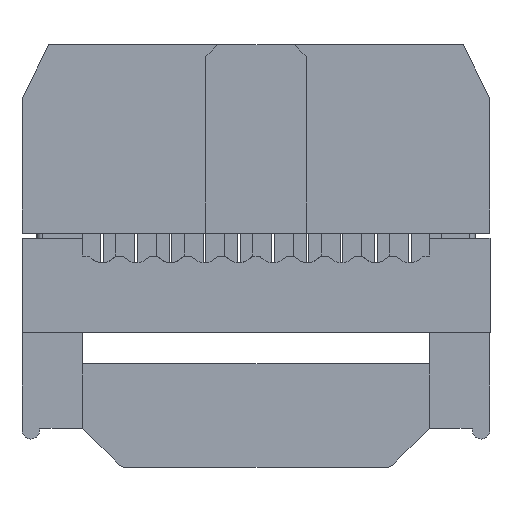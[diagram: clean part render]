
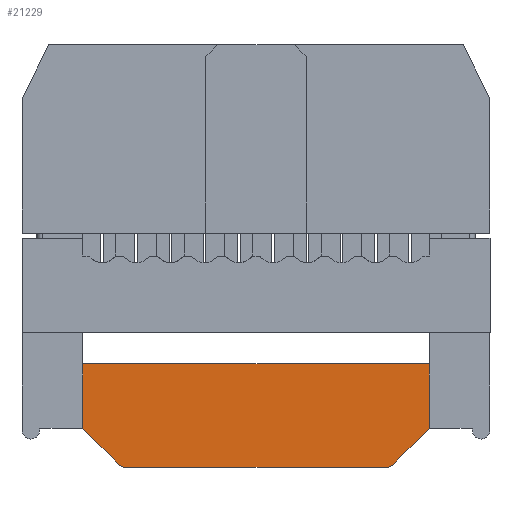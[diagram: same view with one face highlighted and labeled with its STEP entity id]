
A CAD part, front view. The second image highlights one B-rep face of the part: STEP entity #21229.
In plain terms, the highlighted planar face has unit normal (0, -1, 0).
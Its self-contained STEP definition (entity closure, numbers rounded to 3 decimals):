
#18367 = EDGE_CURVE('',#18368,#18370,#18372,.T.);
#18368 = VERTEX_POINT('',#18369);
#18369 = CARTESIAN_POINT('',(-5.075,-1.685,-1.365));
#18370 = VERTEX_POINT('',#18371);
#18371 = CARTESIAN_POINT('',(-4.87,-1.685,-1.45));
#18372 = SURFACE_CURVE('',#18373,(#18378,#18390),.PCURVE_S1.);
#18373 = CIRCLE('',#18374,0.29);
#18374 = AXIS2_PLACEMENT_3D('',#18375,#18376,#18377);
#18375 = CARTESIAN_POINT('',(-4.87,-1.685,-1.16));
#18376 = DIRECTION('',(0.,-1.,0.));
#18377 = DIRECTION('',(0.,0.,-1.));
#18378 = PCURVE('',#18379,#18384);
#18379 = CYLINDRICAL_SURFACE('',#18380,0.29);
#18380 = AXIS2_PLACEMENT_3D('',#18381,#18382,#18383);
#18381 = CARTESIAN_POINT('',(-4.87,-1.685,-1.16));
#18382 = DIRECTION('',(-0.,-1.,-0.));
#18383 = DIRECTION('',(0.,0.,1.));
#18384 = DEFINITIONAL_REPRESENTATION('',(#18385),#18389);
#18385 = LINE('',#18386,#18387);
#18386 = CARTESIAN_POINT('',(-3.142,0.));
#18387 = VECTOR('',#18388,1.);
#18388 = DIRECTION('',(1.,0.));
#18389 = ( GEOMETRIC_REPRESENTATION_CONTEXT(2) 
PARAMETRIC_REPRESENTATION_CONTEXT() REPRESENTATION_CONTEXT('2D SPACE',''
  ) );
#18390 = PCURVE('',#18391,#18396);
#18391 = PLANE('',#18392);
#18392 = AXIS2_PLACEMENT_3D('',#18393,#18394,#18395);
#18393 = CARTESIAN_POINT('',(-6.44,-1.685,0.));
#18394 = DIRECTION('',(0.,-1.,0.));
#18395 = DIRECTION('',(0.,0.,-1.));
#18396 = DEFINITIONAL_REPRESENTATION('',(#18397),#18401);
#18397 = CIRCLE('',#18398,0.29);
#18398 = AXIS2_PLACEMENT_2D('',#18399,#18400);
#18399 = CARTESIAN_POINT('',(1.16,1.57));
#18400 = DIRECTION('',(1.,0.));
#18401 = ( GEOMETRIC_REPRESENTATION_CONTEXT(2) 
PARAMETRIC_REPRESENTATION_CONTEXT() REPRESENTATION_CONTEXT('2D SPACE',''
  ) );
#18419 = PLANE('',#18420);
#18420 = AXIS2_PLACEMENT_3D('',#18421,#18422,#18423);
#18421 = CARTESIAN_POINT('',(-6.44,-1.685,0.));
#18422 = DIRECTION('',(-0.707,0.,-0.707));
#18423 = DIRECTION('',(-0.707,0.,0.707));
#18474 = PLANE('',#18475);
#18475 = AXIS2_PLACEMENT_3D('',#18476,#18477,#18478);
#18476 = CARTESIAN_POINT('',(-4.99,-1.685,-1.45));
#18477 = DIRECTION('',(0.,0.,-1.));
#18478 = DIRECTION('',(-1.,0.,0.));
#19018 = PLANE('',#19019);
#19019 = AXIS2_PLACEMENT_3D('',#19020,#19021,#19022);
#19020 = CARTESIAN_POINT('',(6.44,-3.,0.));
#19021 = DIRECTION('',(1.,0.,0.));
#19022 = DIRECTION('',(0.,0.,-1.));
#19402 = VERTEX_POINT('',#19403);
#19403 = CARTESIAN_POINT('',(6.44,-1.685,2.4));
#19417 = PLANE('',#19418);
#19418 = AXIS2_PLACEMENT_3D('',#19419,#19420,#19421);
#19419 = CARTESIAN_POINT('',(-6.44,-1.685,2.4));
#19420 = DIRECTION('',(0.,0.,-1.));
#19421 = DIRECTION('',(-1.,0.,0.));
#19429 = EDGE_CURVE('',#19430,#19402,#19432,.T.);
#19430 = VERTEX_POINT('',#19431);
#19431 = CARTESIAN_POINT('',(6.44,-1.685,0.));
#19432 = SURFACE_CURVE('',#19433,(#19437,#19444),.PCURVE_S1.);
#19433 = LINE('',#19434,#19435);
#19434 = CARTESIAN_POINT('',(6.44,-1.685,2.4));
#19435 = VECTOR('',#19436,1.);
#19436 = DIRECTION('',(0.,0.,1.));
#19437 = PCURVE('',#19018,#19438);
#19438 = DEFINITIONAL_REPRESENTATION('',(#19439),#19443);
#19439 = LINE('',#19440,#19441);
#19440 = CARTESIAN_POINT('',(-2.4,1.315));
#19441 = VECTOR('',#19442,1.);
#19442 = DIRECTION('',(-1.,0.));
#19443 = ( GEOMETRIC_REPRESENTATION_CONTEXT(2) 
PARAMETRIC_REPRESENTATION_CONTEXT() REPRESENTATION_CONTEXT('2D SPACE',''
  ) );
#19444 = PCURVE('',#18391,#19445);
#19445 = DEFINITIONAL_REPRESENTATION('',(#19446),#19450);
#19446 = LINE('',#19447,#19448);
#19447 = CARTESIAN_POINT('',(-2.4,12.88));
#19448 = VECTOR('',#19449,1.);
#19449 = DIRECTION('',(-1.,0.));
#19450 = ( GEOMETRIC_REPRESENTATION_CONTEXT(2) 
PARAMETRIC_REPRESENTATION_CONTEXT() REPRESENTATION_CONTEXT('2D SPACE',''
  ) );
#19877 = PLANE('',#19878);
#19878 = AXIS2_PLACEMENT_3D('',#19879,#19880,#19881);
#19879 = CARTESIAN_POINT('',(4.99,-1.685,-1.45));
#19880 = DIRECTION('',(0.707,0.,-0.707));
#19881 = DIRECTION('',(-0.707,0.,-0.707));
#19968 = PLANE('',#19969);
#19969 = AXIS2_PLACEMENT_3D('',#19970,#19971,#19972);
#19970 = CARTESIAN_POINT('',(-6.44,-3.,0.));
#19971 = DIRECTION('',(-1.,0.,0.));
#19972 = DIRECTION('',(0.,0.,1.));
#19981 = VERTEX_POINT('',#19982);
#19982 = CARTESIAN_POINT('',(-6.44,-1.685,0.));
#20145 = VERTEX_POINT('',#20146);
#20146 = CARTESIAN_POINT('',(-6.44,-1.685,2.4));
#20237 = EDGE_CURVE('',#20145,#19981,#20238,.T.);
#20238 = SURFACE_CURVE('',#20239,(#20243,#20250),.PCURVE_S1.);
#20239 = LINE('',#20240,#20241);
#20240 = CARTESIAN_POINT('',(-6.44,-1.685,0.));
#20241 = VECTOR('',#20242,1.);
#20242 = DIRECTION('',(0.,0.,-1.));
#20243 = PCURVE('',#19968,#20244);
#20244 = DEFINITIONAL_REPRESENTATION('',(#20245),#20249);
#20245 = LINE('',#20246,#20247);
#20246 = CARTESIAN_POINT('',(0.,1.315));
#20247 = VECTOR('',#20248,1.);
#20248 = DIRECTION('',(-1.,0.));
#20249 = ( GEOMETRIC_REPRESENTATION_CONTEXT(2) 
PARAMETRIC_REPRESENTATION_CONTEXT() REPRESENTATION_CONTEXT('2D SPACE',''
  ) );
#20250 = PCURVE('',#18391,#20251);
#20251 = DEFINITIONAL_REPRESENTATION('',(#20252),#20256);
#20252 = LINE('',#20253,#20254);
#20253 = CARTESIAN_POINT('',(0.,0.));
#20254 = VECTOR('',#20255,1.);
#20255 = DIRECTION('',(1.,0.));
#20256 = ( GEOMETRIC_REPRESENTATION_CONTEXT(2) 
PARAMETRIC_REPRESENTATION_CONTEXT() REPRESENTATION_CONTEXT('2D SPACE',''
  ) );
#20367 = CYLINDRICAL_SURFACE('',#20368,0.29);
#20368 = AXIS2_PLACEMENT_3D('',#20369,#20370,#20371);
#20369 = CARTESIAN_POINT('',(4.87,-1.685,-1.16));
#20370 = DIRECTION('',(-0.,-1.,-0.));
#20371 = DIRECTION('',(0.,0.,1.));
#20384 = EDGE_CURVE('',#18368,#19981,#20385,.T.);
#20385 = SURFACE_CURVE('',#20386,(#20390,#20397),.PCURVE_S1.);
#20386 = LINE('',#20387,#20388);
#20387 = CARTESIAN_POINT('',(-6.44,-1.685,0.));
#20388 = VECTOR('',#20389,1.);
#20389 = DIRECTION('',(-0.707,0.,0.707));
#20390 = PCURVE('',#18419,#20391);
#20391 = DEFINITIONAL_REPRESENTATION('',(#20392),#20396);
#20392 = LINE('',#20393,#20394);
#20393 = CARTESIAN_POINT('',(0.,0.));
#20394 = VECTOR('',#20395,1.);
#20395 = DIRECTION('',(1.,0.));
#20396 = ( GEOMETRIC_REPRESENTATION_CONTEXT(2) 
PARAMETRIC_REPRESENTATION_CONTEXT() REPRESENTATION_CONTEXT('2D SPACE',''
  ) );
#20397 = PCURVE('',#18391,#20398);
#20398 = DEFINITIONAL_REPRESENTATION('',(#20399),#20403);
#20399 = LINE('',#20400,#20401);
#20400 = CARTESIAN_POINT('',(0.,0.));
#20401 = VECTOR('',#20402,1.);
#20402 = DIRECTION('',(-0.707,-0.707));
#20403 = ( GEOMETRIC_REPRESENTATION_CONTEXT(2) 
PARAMETRIC_REPRESENTATION_CONTEXT() REPRESENTATION_CONTEXT('2D SPACE',''
  ) );
#21229 = ADVANCED_FACE('',(#21230),#18391,.T.);
#21230 = FACE_BOUND('',#21231,.T.);
#21231 = EDGE_LOOP('',(#21232,#21233,#21234,#21257,#21281,#21302,#21303,
    #21324));
#21232 = ORIENTED_EDGE('',*,*,#20384,.F.);
#21233 = ORIENTED_EDGE('',*,*,#18367,.T.);
#21234 = ORIENTED_EDGE('',*,*,#21235,.F.);
#21235 = EDGE_CURVE('',#21236,#18370,#21238,.T.);
#21236 = VERTEX_POINT('',#21237);
#21237 = CARTESIAN_POINT('',(4.87,-1.685,-1.45));
#21238 = SURFACE_CURVE('',#21239,(#21243,#21250),.PCURVE_S1.);
#21239 = LINE('',#21240,#21241);
#21240 = CARTESIAN_POINT('',(-4.99,-1.685,-1.45));
#21241 = VECTOR('',#21242,1.);
#21242 = DIRECTION('',(-1.,0.,0.));
#21243 = PCURVE('',#18391,#21244);
#21244 = DEFINITIONAL_REPRESENTATION('',(#21245),#21249);
#21245 = LINE('',#21246,#21247);
#21246 = CARTESIAN_POINT('',(1.45,1.45));
#21247 = VECTOR('',#21248,1.);
#21248 = DIRECTION('',(0.,-1.));
#21249 = ( GEOMETRIC_REPRESENTATION_CONTEXT(2) 
PARAMETRIC_REPRESENTATION_CONTEXT() REPRESENTATION_CONTEXT('2D SPACE',''
  ) );
#21250 = PCURVE('',#18474,#21251);
#21251 = DEFINITIONAL_REPRESENTATION('',(#21252),#21256);
#21252 = LINE('',#21253,#21254);
#21253 = CARTESIAN_POINT('',(0.,0.));
#21254 = VECTOR('',#21255,1.);
#21255 = DIRECTION('',(1.,0.));
#21256 = ( GEOMETRIC_REPRESENTATION_CONTEXT(2) 
PARAMETRIC_REPRESENTATION_CONTEXT() REPRESENTATION_CONTEXT('2D SPACE',''
  ) );
#21257 = ORIENTED_EDGE('',*,*,#21258,.T.);
#21258 = EDGE_CURVE('',#21236,#21259,#21261,.T.);
#21259 = VERTEX_POINT('',#21260);
#21260 = CARTESIAN_POINT('',(5.075,-1.685,-1.365));
#21261 = SURFACE_CURVE('',#21262,(#21267,#21274),.PCURVE_S1.);
#21262 = CIRCLE('',#21263,0.29);
#21263 = AXIS2_PLACEMENT_3D('',#21264,#21265,#21266);
#21264 = CARTESIAN_POINT('',(4.87,-1.685,-1.16));
#21265 = DIRECTION('',(0.,-1.,0.));
#21266 = DIRECTION('',(0.,0.,-1.));
#21267 = PCURVE('',#18391,#21268);
#21268 = DEFINITIONAL_REPRESENTATION('',(#21269),#21273);
#21269 = CIRCLE('',#21270,0.29);
#21270 = AXIS2_PLACEMENT_2D('',#21271,#21272);
#21271 = CARTESIAN_POINT('',(1.16,11.31));
#21272 = DIRECTION('',(1.,0.));
#21273 = ( GEOMETRIC_REPRESENTATION_CONTEXT(2) 
PARAMETRIC_REPRESENTATION_CONTEXT() REPRESENTATION_CONTEXT('2D SPACE',''
  ) );
#21274 = PCURVE('',#20367,#21275);
#21275 = DEFINITIONAL_REPRESENTATION('',(#21276),#21280);
#21276 = LINE('',#21277,#21278);
#21277 = CARTESIAN_POINT('',(3.142,0.));
#21278 = VECTOR('',#21279,1.);
#21279 = DIRECTION('',(1.,0.));
#21280 = ( GEOMETRIC_REPRESENTATION_CONTEXT(2) 
PARAMETRIC_REPRESENTATION_CONTEXT() REPRESENTATION_CONTEXT('2D SPACE',''
  ) );
#21281 = ORIENTED_EDGE('',*,*,#21282,.F.);
#21282 = EDGE_CURVE('',#19430,#21259,#21283,.T.);
#21283 = SURFACE_CURVE('',#21284,(#21288,#21295),.PCURVE_S1.);
#21284 = LINE('',#21285,#21286);
#21285 = CARTESIAN_POINT('',(4.99,-1.685,-1.45));
#21286 = VECTOR('',#21287,1.);
#21287 = DIRECTION('',(-0.707,0.,-0.707));
#21288 = PCURVE('',#18391,#21289);
#21289 = DEFINITIONAL_REPRESENTATION('',(#21290),#21294);
#21290 = LINE('',#21291,#21292);
#21291 = CARTESIAN_POINT('',(1.45,11.43));
#21292 = VECTOR('',#21293,1.);
#21293 = DIRECTION('',(0.707,-0.707));
#21294 = ( GEOMETRIC_REPRESENTATION_CONTEXT(2) 
PARAMETRIC_REPRESENTATION_CONTEXT() REPRESENTATION_CONTEXT('2D SPACE',''
  ) );
#21295 = PCURVE('',#19877,#21296);
#21296 = DEFINITIONAL_REPRESENTATION('',(#21297),#21301);
#21297 = LINE('',#21298,#21299);
#21298 = CARTESIAN_POINT('',(0.,0.));
#21299 = VECTOR('',#21300,1.);
#21300 = DIRECTION('',(1.,0.));
#21301 = ( GEOMETRIC_REPRESENTATION_CONTEXT(2) 
PARAMETRIC_REPRESENTATION_CONTEXT() REPRESENTATION_CONTEXT('2D SPACE',''
  ) );
#21302 = ORIENTED_EDGE('',*,*,#19429,.T.);
#21303 = ORIENTED_EDGE('',*,*,#21304,.T.);
#21304 = EDGE_CURVE('',#19402,#20145,#21305,.T.);
#21305 = SURFACE_CURVE('',#21306,(#21310,#21317),.PCURVE_S1.);
#21306 = LINE('',#21307,#21308);
#21307 = CARTESIAN_POINT('',(-6.44,-1.685,2.4));
#21308 = VECTOR('',#21309,1.);
#21309 = DIRECTION('',(-1.,0.,0.));
#21310 = PCURVE('',#18391,#21311);
#21311 = DEFINITIONAL_REPRESENTATION('',(#21312),#21316);
#21312 = LINE('',#21313,#21314);
#21313 = CARTESIAN_POINT('',(-2.4,0.));
#21314 = VECTOR('',#21315,1.);
#21315 = DIRECTION('',(0.,-1.));
#21316 = ( GEOMETRIC_REPRESENTATION_CONTEXT(2) 
PARAMETRIC_REPRESENTATION_CONTEXT() REPRESENTATION_CONTEXT('2D SPACE',''
  ) );
#21317 = PCURVE('',#19417,#21318);
#21318 = DEFINITIONAL_REPRESENTATION('',(#21319),#21323);
#21319 = LINE('',#21320,#21321);
#21320 = CARTESIAN_POINT('',(0.,0.));
#21321 = VECTOR('',#21322,1.);
#21322 = DIRECTION('',(1.,0.));
#21323 = ( GEOMETRIC_REPRESENTATION_CONTEXT(2) 
PARAMETRIC_REPRESENTATION_CONTEXT() REPRESENTATION_CONTEXT('2D SPACE',''
  ) );
#21324 = ORIENTED_EDGE('',*,*,#20237,.T.);
